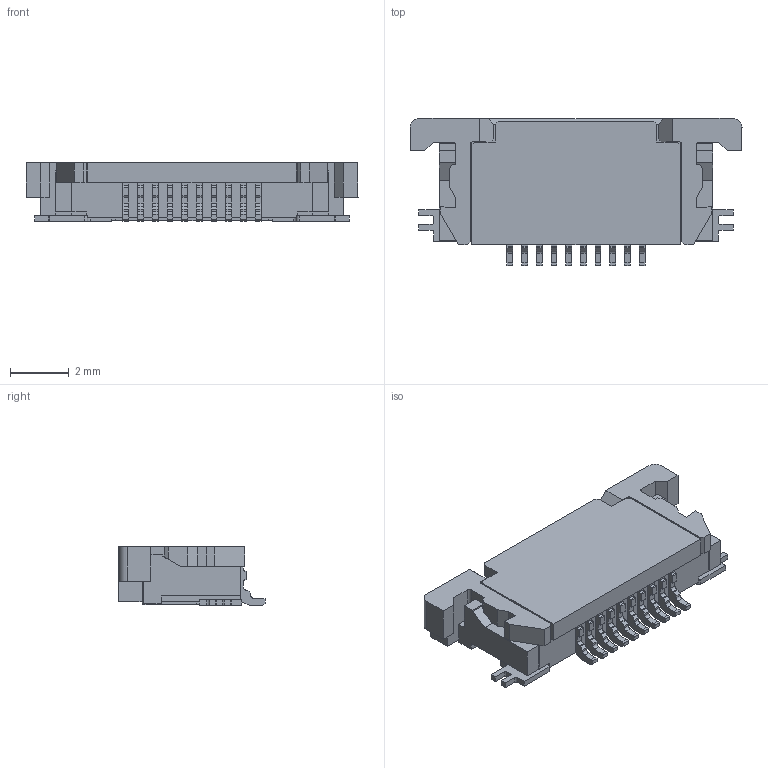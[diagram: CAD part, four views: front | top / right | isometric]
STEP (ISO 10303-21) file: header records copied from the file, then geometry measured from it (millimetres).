
FILE_DESCRIPTION (( 'STEP AP214' ), '1' );
FILE_NAME ('006212010340.STEP', '2023-03-30T02:23:37', ( '' ), ( '' ), 'SwSTEP 2.0', 'SolidWorks 2021', '' );
FILE_SCHEMA (( 'AUTOMOTIVE_DESIGN' ));
Length unit declared in the file: millimetre
Products named in the file (1): 006212010340
Bounding box: 11.3 x 5 x 2 mm (x, y, z)
Volume: 69.3 mm3; surface area: 218.1 mm2
Topology: 1 solids, 1 shells, 381 faces, 1126 edges, 748 vertices
Faces by surface type: plane 321, cylinder 60
Entity records: 12596 total; most frequent: CARTESIAN_POINT 2256, ORIENTED_EDGE 2252, DIRECTION 2016, EDGE_CURVE 1126, VECTOR 1000, LINE 1000, VERTEX_POINT 748, AXIS2_PLACEMENT_3D 508
